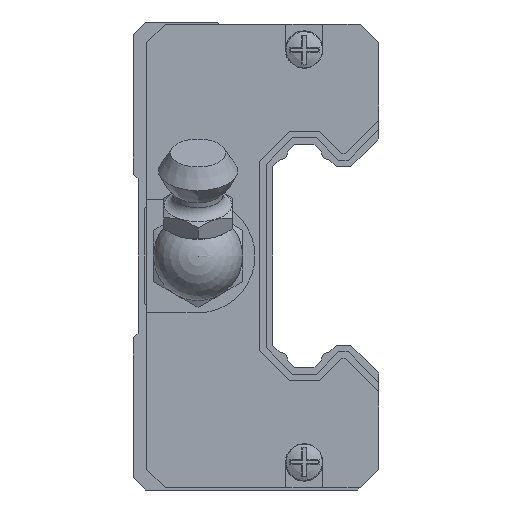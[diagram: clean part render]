
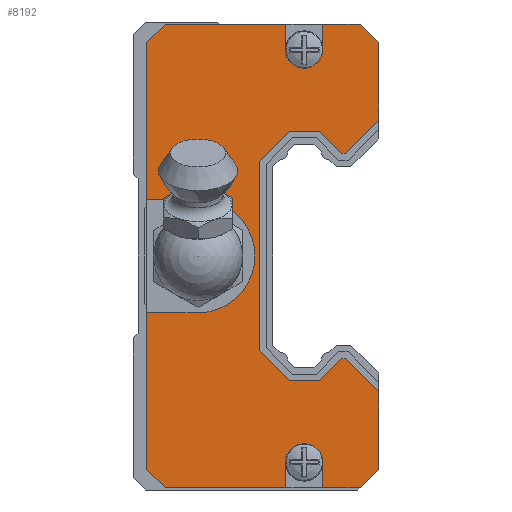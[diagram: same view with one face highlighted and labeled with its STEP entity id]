
A CAD part, left-side view. The second image highlights one B-rep face of the part: STEP entity #8192.
In plain terms, the highlighted planar face has unit normal (-1, 0, 0) as drawn and (1, 0, 0) by its records, which use the part's own axes.
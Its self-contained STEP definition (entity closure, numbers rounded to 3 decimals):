
#7757 = EDGE_CURVE('',#7758,#7760,#7762,.T.);
#7758 = VERTEX_POINT('',#7759);
#7759 = CARTESIAN_POINT('',(2.,14.319,-20.8));
#7760 = VERTEX_POINT('',#7761);
#7761 = CARTESIAN_POINT('',(2.,14.319,-18.5));
#7762 = LINE('',#7763,#7764);
#7763 = CARTESIAN_POINT('',(2.,14.319,0.));
#7764 = VECTOR('',#7765,1.);
#7765 = DIRECTION('',(0.,0.,1.));
#7808 = VERTEX_POINT('',#7809);
#7809 = CARTESIAN_POINT('',(2.,11.021,-18.5));
#7815 = EDGE_CURVE('',#7760,#7808,#7816,.T.);
#7816 = CIRCLE('',#7817,1.649);
#7817 = AXIS2_PLACEMENT_3D('',#7818,#7819,#7820);
#7818 = CARTESIAN_POINT('',(2.,12.67,-18.5));
#7819 = DIRECTION('',(1.,0.,0.));
#7820 = DIRECTION('',(0.,0.,-1.));
#8144 = VERTEX_POINT('',#8145);
#8145 = CARTESIAN_POINT('',(2.,6.,12.197));
#8151 = EDGE_CURVE('',#8152,#8144,#8154,.T.);
#8152 = VERTEX_POINT('',#8153);
#8153 = CARTESIAN_POINT('',(2.,6.,19.15));
#8154 = LINE('',#8155,#8156);
#8155 = CARTESIAN_POINT('',(2.,6.,19.15));
#8156 = VECTOR('',#8157,1.);
#8157 = DIRECTION('',(0.,0.,-1.));
#8192 = ADVANCED_FACE('',(#8193),#8428,.T.);
#8193 = FACE_BOUND('',#8194,.T.);
#8194 = EDGE_LOOP('',(#8195,#8203,#8211,#8219,#8227,#8235,#8243,#8251,
    #8259,#8267,#8275,#8283,#8291,#8299,#8307,#8313,#8314,#8315,#8323,
    #8331,#8339,#8347,#8356,#8364,#8372,#8380,#8388,#8396,#8405,#8413,
    #8421,#8427));
#8195 = ORIENTED_EDGE('',*,*,#8196,.F.);
#8196 = EDGE_CURVE('',#8197,#8144,#8199,.T.);
#8197 = VERTEX_POINT('',#8198);
#8198 = CARTESIAN_POINT('',(2.,8.992,9.205));
#8199 = LINE('',#8200,#8201);
#8200 = CARTESIAN_POINT('',(2.,8.992,9.205));
#8201 = VECTOR('',#8202,1.);
#8202 = DIRECTION('',(0.,-0.707,0.707));
#8203 = ORIENTED_EDGE('',*,*,#8204,.F.);
#8204 = EDGE_CURVE('',#8205,#8197,#8207,.T.);
#8205 = VERTEX_POINT('',#8206);
#8206 = CARTESIAN_POINT('',(2.,9.303,9.205));
#8207 = LINE('',#8208,#8209);
#8208 = CARTESIAN_POINT('',(2.,9.303,9.205));
#8209 = VECTOR('',#8210,1.);
#8210 = DIRECTION('',(0.,-1.,0.));
#8211 = ORIENTED_EDGE('',*,*,#8212,.F.);
#8212 = EDGE_CURVE('',#8213,#8205,#8215,.T.);
#8213 = VERTEX_POINT('',#8214);
#8214 = CARTESIAN_POINT('',(2.,11.298,11.2));
#8215 = LINE('',#8216,#8217);
#8216 = CARTESIAN_POINT('',(2.,11.298,11.2));
#8217 = VECTOR('',#8218,1.);
#8218 = DIRECTION('',(0.,-0.707,-0.707));
#8219 = ORIENTED_EDGE('',*,*,#8220,.F.);
#8220 = EDGE_CURVE('',#8221,#8213,#8223,.T.);
#8221 = VERTEX_POINT('',#8222);
#8222 = CARTESIAN_POINT('',(2.,14.002,11.2));
#8223 = LINE('',#8224,#8225);
#8224 = CARTESIAN_POINT('',(2.,14.002,11.2));
#8225 = VECTOR('',#8226,1.);
#8226 = DIRECTION('',(0.,-1.,0.));
#8227 = ORIENTED_EDGE('',*,*,#8228,.F.);
#8228 = EDGE_CURVE('',#8229,#8221,#8231,.T.);
#8229 = VERTEX_POINT('',#8230);
#8230 = CARTESIAN_POINT('',(2.,16.7,8.502));
#8231 = LINE('',#8232,#8233);
#8232 = CARTESIAN_POINT('',(2.,16.7,8.502));
#8233 = VECTOR('',#8234,1.);
#8234 = DIRECTION('',(0.,-0.707,0.707));
#8235 = ORIENTED_EDGE('',*,*,#8236,.F.);
#8236 = EDGE_CURVE('',#8237,#8229,#8239,.T.);
#8237 = VERTEX_POINT('',#8238);
#8238 = CARTESIAN_POINT('',(2.,16.7,-8.502));
#8239 = LINE('',#8240,#8241);
#8240 = CARTESIAN_POINT('',(2.,16.7,-8.502));
#8241 = VECTOR('',#8242,1.);
#8242 = DIRECTION('',(0.,0.,1.));
#8243 = ORIENTED_EDGE('',*,*,#8244,.F.);
#8244 = EDGE_CURVE('',#8245,#8237,#8247,.T.);
#8245 = VERTEX_POINT('',#8246);
#8246 = CARTESIAN_POINT('',(2.,14.002,-11.2));
#8247 = LINE('',#8248,#8249);
#8248 = CARTESIAN_POINT('',(2.,14.002,-11.2));
#8249 = VECTOR('',#8250,1.);
#8250 = DIRECTION('',(0.,0.707,0.707));
#8251 = ORIENTED_EDGE('',*,*,#8252,.F.);
#8252 = EDGE_CURVE('',#8253,#8245,#8255,.T.);
#8253 = VERTEX_POINT('',#8254);
#8254 = CARTESIAN_POINT('',(2.,11.298,-11.2));
#8255 = LINE('',#8256,#8257);
#8256 = CARTESIAN_POINT('',(2.,11.298,-11.2));
#8257 = VECTOR('',#8258,1.);
#8258 = DIRECTION('',(0.,1.,0.));
#8259 = ORIENTED_EDGE('',*,*,#8260,.F.);
#8260 = EDGE_CURVE('',#8261,#8253,#8263,.T.);
#8261 = VERTEX_POINT('',#8262);
#8262 = CARTESIAN_POINT('',(2.,9.303,-9.205));
#8263 = LINE('',#8264,#8265);
#8264 = CARTESIAN_POINT('',(2.,9.303,-9.205));
#8265 = VECTOR('',#8266,1.);
#8266 = DIRECTION('',(0.,0.707,-0.707));
#8267 = ORIENTED_EDGE('',*,*,#8268,.F.);
#8268 = EDGE_CURVE('',#8269,#8261,#8271,.T.);
#8269 = VERTEX_POINT('',#8270);
#8270 = CARTESIAN_POINT('',(2.,8.992,-9.205));
#8271 = LINE('',#8272,#8273);
#8272 = CARTESIAN_POINT('',(2.,8.992,-9.205));
#8273 = VECTOR('',#8274,1.);
#8274 = DIRECTION('',(0.,1.,0.));
#8275 = ORIENTED_EDGE('',*,*,#8276,.F.);
#8276 = EDGE_CURVE('',#8277,#8269,#8279,.T.);
#8277 = VERTEX_POINT('',#8278);
#8278 = CARTESIAN_POINT('',(2.,6.,-12.197));
#8279 = LINE('',#8280,#8281);
#8280 = CARTESIAN_POINT('',(2.,6.,-12.197));
#8281 = VECTOR('',#8282,1.);
#8282 = DIRECTION('',(0.,0.707,0.707));
#8283 = ORIENTED_EDGE('',*,*,#8284,.T.);
#8284 = EDGE_CURVE('',#8277,#8285,#8287,.T.);
#8285 = VERTEX_POINT('',#8286);
#8286 = CARTESIAN_POINT('',(2.,6.,-19.15));
#8287 = LINE('',#8288,#8289);
#8288 = CARTESIAN_POINT('',(2.,6.,19.15));
#8289 = VECTOR('',#8290,1.);
#8290 = DIRECTION('',(0.,0.,-1.));
#8291 = ORIENTED_EDGE('',*,*,#8292,.T.);
#8292 = EDGE_CURVE('',#8285,#8293,#8295,.T.);
#8293 = VERTEX_POINT('',#8294);
#8294 = CARTESIAN_POINT('',(2.,7.65,-20.8));
#8295 = LINE('',#8296,#8297);
#8296 = CARTESIAN_POINT('',(2.,6.,-19.15));
#8297 = VECTOR('',#8298,1.);
#8298 = DIRECTION('',(0.,0.707,-0.707));
#8299 = ORIENTED_EDGE('',*,*,#8300,.T.);
#8300 = EDGE_CURVE('',#8293,#8301,#8303,.T.);
#8301 = VERTEX_POINT('',#8302);
#8302 = CARTESIAN_POINT('',(2.,11.021,-20.8));
#8303 = LINE('',#8304,#8305);
#8304 = CARTESIAN_POINT('',(2.,7.65,-20.8));
#8305 = VECTOR('',#8306,1.);
#8306 = DIRECTION('',(0.,1.,0.));
#8307 = ORIENTED_EDGE('',*,*,#8308,.F.);
#8308 = EDGE_CURVE('',#7808,#8301,#8309,.T.);
#8309 = LINE('',#8310,#8311);
#8310 = CARTESIAN_POINT('',(2.,11.021,-18.5));
#8311 = VECTOR('',#8312,1.);
#8312 = DIRECTION('',(0.,0.,-1.));
#8313 = ORIENTED_EDGE('',*,*,#7815,.F.);
#8314 = ORIENTED_EDGE('',*,*,#7757,.F.);
#8315 = ORIENTED_EDGE('',*,*,#8316,.T.);
#8316 = EDGE_CURVE('',#7758,#8317,#8319,.T.);
#8317 = VERTEX_POINT('',#8318);
#8318 = CARTESIAN_POINT('',(2.,25.15,-20.8));
#8319 = LINE('',#8320,#8321);
#8320 = CARTESIAN_POINT('',(2.,7.65,-20.8));
#8321 = VECTOR('',#8322,1.);
#8322 = DIRECTION('',(0.,1.,0.));
#8323 = ORIENTED_EDGE('',*,*,#8324,.T.);
#8324 = EDGE_CURVE('',#8317,#8325,#8327,.T.);
#8325 = VERTEX_POINT('',#8326);
#8326 = CARTESIAN_POINT('',(2.,26.8,-19.15));
#8327 = LINE('',#8328,#8329);
#8328 = CARTESIAN_POINT('',(2.,25.15,-20.8));
#8329 = VECTOR('',#8330,1.);
#8330 = DIRECTION('',(0.,0.707,0.707));
#8331 = ORIENTED_EDGE('',*,*,#8332,.T.);
#8332 = EDGE_CURVE('',#8325,#8333,#8335,.T.);
#8333 = VERTEX_POINT('',#8334);
#8334 = CARTESIAN_POINT('',(2.,26.8,-5.1));
#8335 = LINE('',#8336,#8337);
#8336 = CARTESIAN_POINT('',(2.,26.8,-19.15));
#8337 = VECTOR('',#8338,1.);
#8338 = DIRECTION('',(0.,0.,1.));
#8339 = ORIENTED_EDGE('',*,*,#8340,.F.);
#8340 = EDGE_CURVE('',#8341,#8333,#8343,.T.);
#8341 = VERTEX_POINT('',#8342);
#8342 = CARTESIAN_POINT('',(2.,22.2,-5.1));
#8343 = LINE('',#8344,#8345);
#8344 = CARTESIAN_POINT('',(2.,22.2,-5.1));
#8345 = VECTOR('',#8346,1.);
#8346 = DIRECTION('',(0.,1.,0.));
#8347 = ORIENTED_EDGE('',*,*,#8348,.F.);
#8348 = EDGE_CURVE('',#8349,#8341,#8351,.T.);
#8349 = VERTEX_POINT('',#8350);
#8350 = CARTESIAN_POINT('',(2.,22.2,5.1));
#8351 = CIRCLE('',#8352,5.1);
#8352 = AXIS2_PLACEMENT_3D('',#8353,#8354,#8355);
#8353 = CARTESIAN_POINT('',(2.,22.2,0.));
#8354 = DIRECTION('',(1.,0.,0.));
#8355 = DIRECTION('',(0.,0.,-1.));
#8356 = ORIENTED_EDGE('',*,*,#8357,.F.);
#8357 = EDGE_CURVE('',#8358,#8349,#8360,.T.);
#8358 = VERTEX_POINT('',#8359);
#8359 = CARTESIAN_POINT('',(2.,26.8,5.1));
#8360 = LINE('',#8361,#8362);
#8361 = CARTESIAN_POINT('',(2.,26.8,5.1));
#8362 = VECTOR('',#8363,1.);
#8363 = DIRECTION('',(0.,-1.,0.));
#8364 = ORIENTED_EDGE('',*,*,#8365,.T.);
#8365 = EDGE_CURVE('',#8358,#8366,#8368,.T.);
#8366 = VERTEX_POINT('',#8367);
#8367 = CARTESIAN_POINT('',(2.,26.8,19.15));
#8368 = LINE('',#8369,#8370);
#8369 = CARTESIAN_POINT('',(2.,26.8,-19.15));
#8370 = VECTOR('',#8371,1.);
#8371 = DIRECTION('',(0.,0.,1.));
#8372 = ORIENTED_EDGE('',*,*,#8373,.T.);
#8373 = EDGE_CURVE('',#8366,#8374,#8376,.T.);
#8374 = VERTEX_POINT('',#8375);
#8375 = CARTESIAN_POINT('',(2.,25.15,20.8));
#8376 = LINE('',#8377,#8378);
#8377 = CARTESIAN_POINT('',(2.,26.8,19.15));
#8378 = VECTOR('',#8379,1.);
#8379 = DIRECTION('',(0.,-0.707,0.707));
#8380 = ORIENTED_EDGE('',*,*,#8381,.T.);
#8381 = EDGE_CURVE('',#8374,#8382,#8384,.T.);
#8382 = VERTEX_POINT('',#8383);
#8383 = CARTESIAN_POINT('',(2.,14.319,20.8));
#8384 = LINE('',#8385,#8386);
#8385 = CARTESIAN_POINT('',(2.,25.15,20.8));
#8386 = VECTOR('',#8387,1.);
#8387 = DIRECTION('',(0.,-1.,0.));
#8388 = ORIENTED_EDGE('',*,*,#8389,.F.);
#8389 = EDGE_CURVE('',#8390,#8382,#8392,.T.);
#8390 = VERTEX_POINT('',#8391);
#8391 = CARTESIAN_POINT('',(2.,14.319,18.5));
#8392 = LINE('',#8393,#8394);
#8393 = CARTESIAN_POINT('',(2.,14.319,18.5));
#8394 = VECTOR('',#8395,1.);
#8395 = DIRECTION('',(0.,0.,1.));
#8396 = ORIENTED_EDGE('',*,*,#8397,.F.);
#8397 = EDGE_CURVE('',#8398,#8390,#8400,.T.);
#8398 = VERTEX_POINT('',#8399);
#8399 = CARTESIAN_POINT('',(2.,11.021,18.5));
#8400 = CIRCLE('',#8401,1.649);
#8401 = AXIS2_PLACEMENT_3D('',#8402,#8403,#8404);
#8402 = CARTESIAN_POINT('',(2.,12.67,18.5));
#8403 = DIRECTION('',(1.,0.,0.));
#8404 = DIRECTION('',(0.,0.,-1.));
#8405 = ORIENTED_EDGE('',*,*,#8406,.F.);
#8406 = EDGE_CURVE('',#8407,#8398,#8409,.T.);
#8407 = VERTEX_POINT('',#8408);
#8408 = CARTESIAN_POINT('',(2.,11.021,20.8));
#8409 = LINE('',#8410,#8411);
#8410 = CARTESIAN_POINT('',(2.,11.021,20.8));
#8411 = VECTOR('',#8412,1.);
#8412 = DIRECTION('',(0.,0.,-1.));
#8413 = ORIENTED_EDGE('',*,*,#8414,.T.);
#8414 = EDGE_CURVE('',#8407,#8415,#8417,.T.);
#8415 = VERTEX_POINT('',#8416);
#8416 = CARTESIAN_POINT('',(2.,7.65,20.8));
#8417 = LINE('',#8418,#8419);
#8418 = CARTESIAN_POINT('',(2.,25.15,20.8));
#8419 = VECTOR('',#8420,1.);
#8420 = DIRECTION('',(0.,-1.,0.));
#8421 = ORIENTED_EDGE('',*,*,#8422,.T.);
#8422 = EDGE_CURVE('',#8415,#8152,#8423,.T.);
#8423 = LINE('',#8424,#8425);
#8424 = CARTESIAN_POINT('',(2.,7.65,20.8));
#8425 = VECTOR('',#8426,1.);
#8426 = DIRECTION('',(0.,-0.707,-0.707));
#8427 = ORIENTED_EDGE('',*,*,#8151,.T.);
#8428 = PLANE('',#8429);
#8429 = AXIS2_PLACEMENT_3D('',#8430,#8431,#8432);
#8430 = CARTESIAN_POINT('',(2.,0.,0.));
#8431 = DIRECTION('',(1.,0.,0.));
#8432 = DIRECTION('',(0.,0.,1.));
